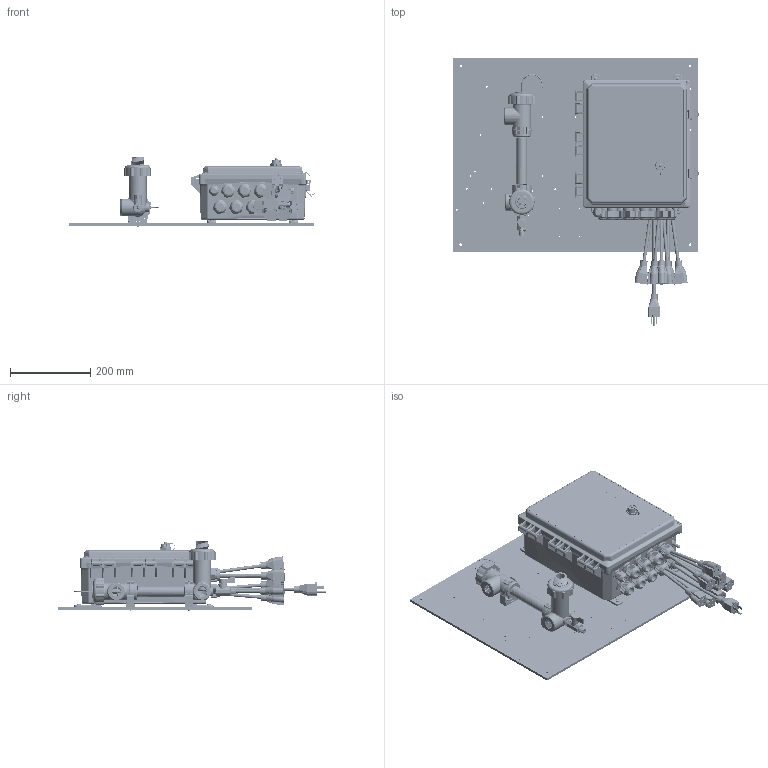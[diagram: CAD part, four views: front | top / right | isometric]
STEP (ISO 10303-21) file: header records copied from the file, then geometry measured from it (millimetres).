
FILE_DESCRIPTION (( 'STEP AP203' ), '1' );
FILE_NAME ('W900-CT-PBNNNN.STEP', '2018-03-09T19:17:30', ( '' ), ( '' ), 'SwSTEP 2.0', 'SolidWorks 2016', '' );
FILE_SCHEMA (( 'CONFIG_CONTROL_DESIGN' ));
Length unit declared in the file: inch
Products named in the file (35): W900 Shell; IMC0006; IMS0037_Cord1; ISA0032; IMC0009_102879-01; 102903_102903; IMS0036_91772A829; IMC0002; W900-CT-PBNNNN; IMC0001; IMS0029; IMS0034; IMS0005; IMS0023_30075T212; IMS0013; IMS0006; ISA0006; 103860_Cord1; ISA0026; ISA0025; IMR0003; 102906; IMS0012; IMS0010; IMC0010; IMS0035_91500A537; IMS0032; 102907; IMS0027_98273A320; ISA0023; 103861; IMC0003
Assembly tree (61 placements, depth 5):
  W900-CT-PBNNNN
    IMR0003
    W900 Shell
      W900 Shell
      IMS0034  x4
      IMS0035_91500A537  x4
      IMS0036_91772A829  x4
      ISA0006
        102903_102903
        102906
        103860_Cord1  x3
        103861
      ISA0006
        102903_102903
        102906
        103860_Cord1  x2
        103861
      ISA0006
        102907
        102903_102903
        102906
        103860_Cord1  x3
        103861
      IMS0037_Cord1
    ISA0032
      ISA0023
        IMS0013
        IMS0012
      IMC0009_102879-01
      IMS0032
      IMC0002
      ISA0026
        IMC0003
        IMS0010
        IMS0006
        ISA0025
          IMC0006
          IMS0029  x2
      IMS0005
      IMS0006
      IMC0001  x2
      IMC0010
    IMS0023_30075T212  x2
    IMS0027_98273A320  x2
Bounding box: 612.29 x 665.28 x 174.64 mm (x, y, z)
Volume: 4173748.1 mm3; surface area: 1902541.7 mm2
Topology: 99 solids, 102 shells, 15140 faces, 39558 edges, 24759 vertices
Faces by surface type: plane 6330, cylinder 4406, bspline 3022, cone 832, torus 454, sphere 96
Entity records: 665408 total; most frequent: CARTESIAN_POINT 372320, ORIENTED_EDGE 69314, DIRECTION 47617, EDGE_CURVE 34661, VERTEX_POINT 21802, AXIS2_PLACEMENT_3D 16402, LINE 14813, VECTOR 14813
